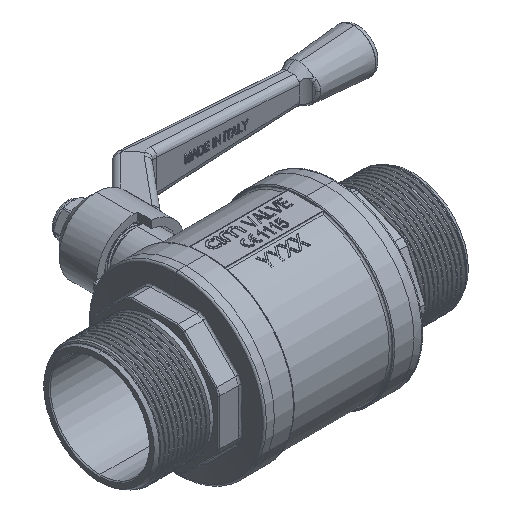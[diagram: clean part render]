
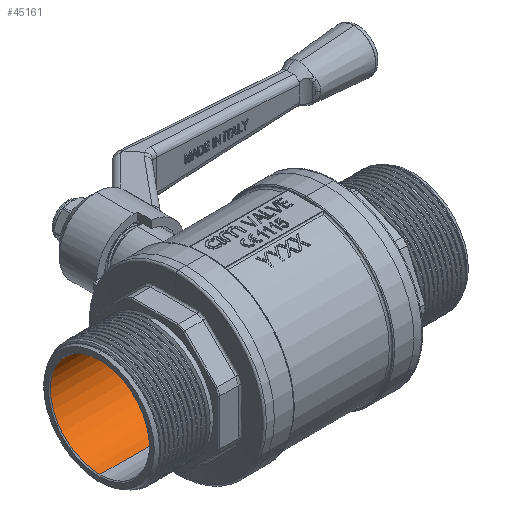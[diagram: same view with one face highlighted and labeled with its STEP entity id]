
A CAD part, isometric view. The second image highlights one B-rep face of the part: STEP entity #45161.
In plain terms, the highlighted cylindrical face has radius 25 mm (diameter 50 mm), a partial arc.
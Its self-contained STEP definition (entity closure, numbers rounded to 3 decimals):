
#40 = DIRECTION ( 'NONE',  ( 0., 0., -1. ) ) ;
#957 = AXIS2_PLACEMENT_3D ( 'NONE', #7713, #7362, #11999 ) ;
#1556 = ORIENTED_EDGE ( 'NONE', *, *, #38109, .T. ) ;
#1780 = CARTESIAN_POINT ( 'NONE',  ( -33.657, 0., 0. ) ) ;
#2802 = EDGE_CURVE ( 'NONE', #12224, #17812, #45181, .T. ) ;
#3262 = CARTESIAN_POINT ( 'NONE',  ( -78.7, 0., 0. ) ) ;
#3875 = LINE ( 'NONE', #29603, #25956 ) ;
#3955 = DIRECTION ( 'NONE',  ( 1., 0., 0. ) ) ;
#3989 = CYLINDRICAL_SURFACE ( 'NONE', #24650, 25. ) ;
#4247 = DIRECTION ( 'NONE',  ( 0., 0., -1. ) ) ;
#5685 = CARTESIAN_POINT ( 'NONE',  ( -78.7, 25., 0. ) ) ;
#6101 = DIRECTION ( 'NONE',  ( -1., 0., 0. ) ) ;
#7362 = DIRECTION ( 'NONE',  ( 1., 0., 0. ) ) ;
#7589 = DIRECTION ( 'NONE',  ( 0., 0., -1. ) ) ;
#7713 = CARTESIAN_POINT ( 'NONE',  ( -78.7, 0., 0. ) ) ;
#9634 = VERTEX_POINT ( 'NONE', #34969 ) ;
#9647 = ORIENTED_EDGE ( 'NONE', *, *, #2802, .F. ) ;
#10106 = EDGE_CURVE ( 'NONE', #24387, #12224, #40008, .T. ) ;
#11087 = EDGE_CURVE ( 'NONE', #40303, #13555, #53958, .T. ) ;
#11999 = DIRECTION ( 'NONE',  ( 0., 0., -1. ) ) ;
#12224 = VERTEX_POINT ( 'NONE', #5685 ) ;
#12674 = ORIENTED_EDGE ( 'NONE', *, *, #50916, .F. ) ;
#13555 = VERTEX_POINT ( 'NONE', #16595 ) ;
#16595 = CARTESIAN_POINT ( 'NONE',  ( -33.657, 0., -25. ) ) ;
#16782 = DIRECTION ( 'NONE',  ( 1., 0., 0. ) ) ;
#16948 = DIRECTION ( 'NONE',  ( 1., 0., 0. ) ) ;
#17812 = VERTEX_POINT ( 'NONE', #43426 ) ;
#18621 = DIRECTION ( 'NONE',  ( 0., 0., -1. ) ) ;
#20757 = CARTESIAN_POINT ( 'NONE',  ( -22.725, 0., -25. ) ) ;
#24387 = VERTEX_POINT ( 'NONE', #47360 ) ;
#24650 = AXIS2_PLACEMENT_3D ( 'NONE', #34240, #16948, #4247 ) ;
#24805 = DIRECTION ( 'NONE',  ( 1., 0., 0. ) ) ;
#25956 = VECTOR ( 'NONE', #3955, 1000. ) ;
#29603 = CARTESIAN_POINT ( 'NONE',  ( -22.725, 0., 25. ) ) ;
#29683 = AXIS2_PLACEMENT_3D ( 'NONE', #1780, #6101, #18621 ) ;
#33804 = AXIS2_PLACEMENT_3D ( 'NONE', #3262, #24805, #7589 ) ;
#33929 = EDGE_LOOP ( 'NONE', ( #12674, #9647, #45312, #1556, #39146, #40348 ) ) ;
#34161 = CARTESIAN_POINT ( 'NONE',  ( -33.657, 0., 0. ) ) ;
#34240 = CARTESIAN_POINT ( 'NONE',  ( -22.725, 0., 0. ) ) ;
#34969 = CARTESIAN_POINT ( 'NONE',  ( -33.657, 0., 25. ) ) ;
#37578 = FACE_OUTER_BOUND ( 'NONE', #33929, .T. ) ;
#37921 = VECTOR ( 'NONE', #16782, 1000. ) ;
#38109 = EDGE_CURVE ( 'NONE', #24387, #13555, #49279, .T. ) ;
#39146 = ORIENTED_EDGE ( 'NONE', *, *, #11087, .F. ) ;
#39423 = DIRECTION ( 'NONE',  ( -1., 0., 0. ) ) ;
#40008 = CIRCLE ( 'NONE', #957, 25. ) ;
#40303 = VERTEX_POINT ( 'NONE', #52601 ) ;
#40348 = ORIENTED_EDGE ( 'NONE', *, *, #55026, .F. ) ;
#43426 = CARTESIAN_POINT ( 'NONE',  ( -78.7, 0., 25. ) ) ;
#43543 = CIRCLE ( 'NONE', #50809, 25. ) ;
#45161 = ADVANCED_FACE ( 'NONE', ( #37578 ), #3989, .F. ) ;
#45181 = CIRCLE ( 'NONE', #33804, 25. ) ;
#45312 = ORIENTED_EDGE ( 'NONE', *, *, #10106, .F. ) ;
#47360 = CARTESIAN_POINT ( 'NONE',  ( -78.7, 0., -25. ) ) ;
#49279 = LINE ( 'NONE', #20757, #37921 ) ;
#50809 = AXIS2_PLACEMENT_3D ( 'NONE', #34161, #39423, #40 ) ;
#50916 = EDGE_CURVE ( 'NONE', #17812, #9634, #3875, .T. ) ;
#52601 = CARTESIAN_POINT ( 'NONE',  ( -33.657, 25., 0. ) ) ;
#53958 = CIRCLE ( 'NONE', #29683, 25. ) ;
#55026 = EDGE_CURVE ( 'NONE', #9634, #40303, #43543, .T. ) ;
